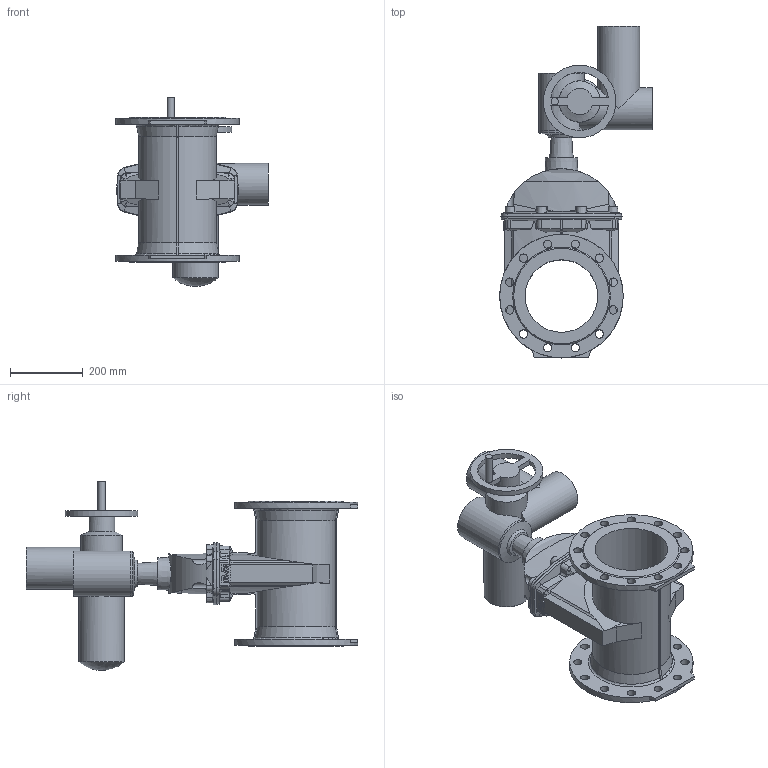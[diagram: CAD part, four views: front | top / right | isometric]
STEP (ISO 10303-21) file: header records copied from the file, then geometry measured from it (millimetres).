
FILE_DESCRIPTION (( 'STEP AP203' ), '1' );
FILE_NAME ('O_15_72_DN200_X1XXX099_SA10.2_AA0.step', '2017-03-20T13:03:08', ( 'Windows User' ), ( 'AVK' ), 'SwSTEP 2.0', 'SolidWorks 2012', '' );
FILE_SCHEMA (( 'CONFIG_CONTROL_DESIGN' ));
Length unit declared in the file: inch
Products named in the file (1): O_15_72_DN200_X1XXX099_SA10.2_AA0
Bounding box: 420 x 914 x 520.49 mm (x, y, z)
Volume: 22275166.8 mm3; surface area: 1435595.8 mm2
Topology: 1 solids, 1 shells, 375 faces, 1084 edges, 706 vertices
Faces by surface type: plane 168, cylinder 103, cone 87, sphere 11, bspline 4, torus 2
Full cylindrical faces by diameter (mm): 20 x1, 23 x24, 72.112 x1, 113.905 x1, 115 x2, 125 x3, 200 x2, 340 x2
Entity records: 13957 total; most frequent: CARTESIAN_POINT 4782, ORIENTED_EDGE 1966, DIRECTION 1739, EDGE_CURVE 983, VERTEX_POINT 665, AXIS2_PLACEMENT_3D 626, LINE 487, VECTOR 487
